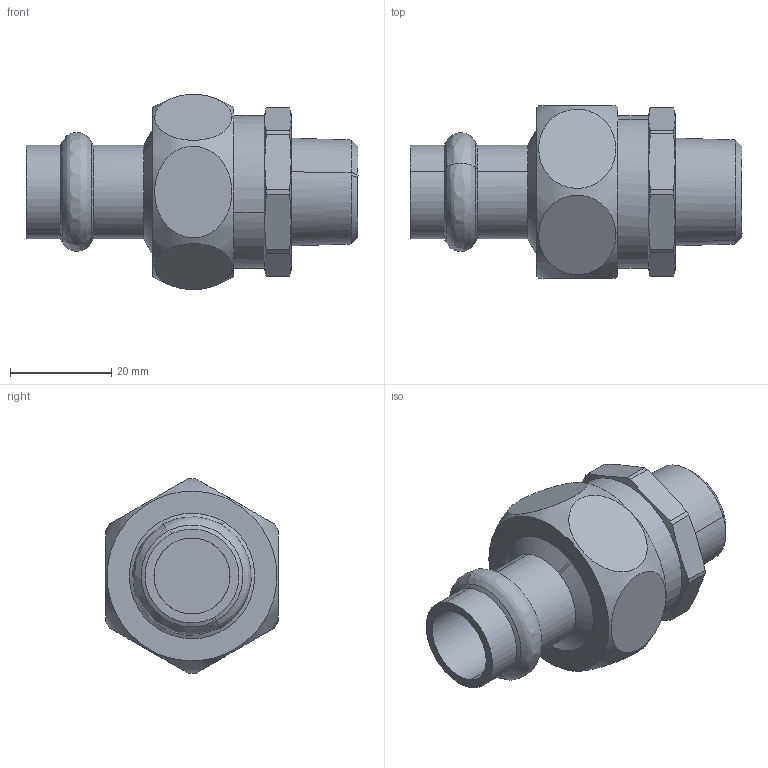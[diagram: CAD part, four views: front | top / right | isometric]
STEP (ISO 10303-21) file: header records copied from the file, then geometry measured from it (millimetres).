
FILE_DESCRIPTION(('STEP AP214'),'1');
FILE_NAME('pim0003435.stp','2015-03-20T09:32:44',('CAD-PIM'),('TransMagic, Inc.'),'TMR11sp0','TransMagic R11',' ');
FILE_SCHEMA(('AUTOMOTIVE_DESIGN'));
Length unit declared in the file: millimetre
Products named in the file (1): pim0003435
Bounding box: 65.49 x 34 x 38.47 mm (x, y, z)
Volume: 32358.4 mm3; surface area: 8295.7 mm2
Topology: 1 solids, 1 shells, 69 faces, 180 edges, 121 vertices
Faces by surface type: bspline 69
Entity records: 3778 total; most frequent: CARTESIAN_POINT 2208, ORIENTED_EDGE 360, EDGE_CURVE 180, VERTEX_POINT 121, B_SPLINE_CURVE_WITH_KNOTS 83, EDGE_LOOP 77, STYLED_ITEM 70, PRESENTATION_STYLE_ASSIGNMENT 70
